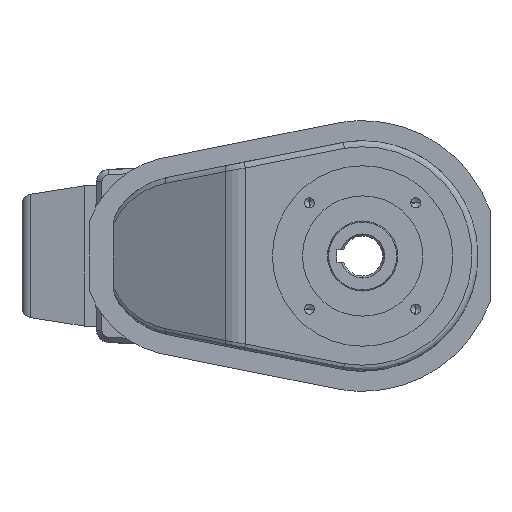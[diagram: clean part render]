
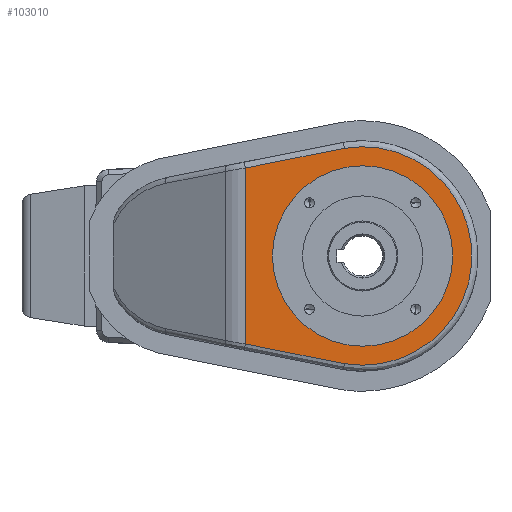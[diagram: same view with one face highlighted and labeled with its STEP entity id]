
A CAD part, left-side view. The second image highlights one B-rep face of the part: STEP entity #103010.
In plain terms, the highlighted planar face has unit normal (-1, 0, 0).
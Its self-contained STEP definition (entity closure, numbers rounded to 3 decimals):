
#101860=CARTESIAN_POINT('',(-285.758,-197.027,
0.017));
#101870=VERTEX_POINT('',#101860);
#101900=CARTESIAN_POINT('',(-285.758,-197.027,
45.017));
#101910=DIRECTION('',(-1.,0.,0.));
#101920=DIRECTION('',(0.,0.,-1.));
#101930=AXIS2_PLACEMENT_3D('',#101900,#101910,#101920);
#101940=CIRCLE('',#101930,45.);
#101950=CARTESIAN_POINT('',(-285.758,-197.027,
90.017));
#101960=VERTEX_POINT('',#101950);
#101970=EDGE_CURVE('',#101960,#101870,#101940,.T.);
#102090=CARTESIAN_POINT('',(-285.758,-213.228,
-1.012));
#102100=DIRECTION('',(-1.,0.,0.));
#102110=DIRECTION('',(0.,0.,-1.));
#102120=AXIS2_PLACEMENT_3D('',#102090,#102100,#102110);
#102130=PLANE('',#102120);
#102140=CARTESIAN_POINT('',(-285.758,-255.493,
-1.363));
#102150=DIRECTION('',(0.,0.,-1.));
#102160=VECTOR('',#102150,1.);
#102170=LINE('',#102140,#102160);
#102180=CARTESIAN_POINT('',(-285.758,-255.493,
88.917));
#102190=VERTEX_POINT('',#102180);
#102200=CARTESIAN_POINT('',(-285.758,-255.493,
1.118));
#102210=VERTEX_POINT('',#102200);
#102220=EDGE_CURVE('',#102190,#102210,#102170,.T.);
#102230=ORIENTED_EDGE('',*,*,#102220,.F.);
#102240=CARTESIAN_POINT('',(-285.758,-206.121,
-8.719));
#102250=CARTESIAN_POINT('',(-285.758,-206.246,
-8.694));
#102260=CARTESIAN_POINT('',(-285.758,-206.365,
-8.67));
#102270=CARTESIAN_POINT('',(-285.758,-222.69,
-5.418));
#102280=CARTESIAN_POINT('',(-285.758,-238.883,
-2.192));
#102290=CARTESIAN_POINT('',(-285.758,-255.216,
1.062));
#102300=CARTESIAN_POINT('',(-285.758,-255.354,
1.09));
#102310=CARTESIAN_POINT('',(-285.758,-255.493,
1.118));
#102320=B_SPLINE_CURVE_WITH_KNOTS('',3,(#102240,#102250,#102260,#102270,
#102280,#102290,#102300,#102310),.UNSPECIFIED.,.F.,.F.,(4,2,2,4),(0.,
0.401,49.937,50.361),.UNSPECIFIED.);
#102330=CARTESIAN_POINT('',(-285.758,-206.121,
-8.719));
#102340=VERTEX_POINT('',#102330);
#102350=EDGE_CURVE('',#102340,#102210,#102320,.T.);
#102360=ORIENTED_EDGE('',*,*,#102350,.T.);
#102370=CARTESIAN_POINT('',(-285.758,-206.121,
98.754));
#102380=CARTESIAN_POINT('',(-285.758,-206.061,
98.764));
#102390=CARTESIAN_POINT('',(-285.758,-206.001,
98.774));
#102400=CARTESIAN_POINT('',(-285.758,-205.881,
98.794));
#102410=CARTESIAN_POINT('',(-285.758,-205.82,
98.804));
#102420=CARTESIAN_POINT('',(-285.758,-203.056,
99.252));
#102430=CARTESIAN_POINT('',(-285.758,-200.325,
99.487));
#102440=CARTESIAN_POINT('',(-285.758,-193.084,
99.561));
#102450=CARTESIAN_POINT('',(-285.758,-188.594,
99.049));
#102460=CARTESIAN_POINT('',(-285.758,-179.843,
96.933));
#102470=CARTESIAN_POINT('',(-285.758,-175.615,
95.337));
#102480=CARTESIAN_POINT('',(-285.758,-167.649,
91.141));
#102490=CARTESIAN_POINT('',(-285.758,-163.941,
88.558));
#102500=CARTESIAN_POINT('',(-285.758,-157.245,
82.539));
#102510=CARTESIAN_POINT('',(-285.758,-154.283,
79.127));
#102520=CARTESIAN_POINT('',(-285.758,-149.266,
71.651));
#102530=CARTESIAN_POINT('',(-285.758,-147.23,
67.617));
#102540=CARTESIAN_POINT('',(-285.758,-144.661,
60.438));
#102550=CARTESIAN_POINT('',(-285.758,-143.864,
57.412));
#102560=CARTESIAN_POINT('',(-285.758,-142.796,
51.258));
#102570=CARTESIAN_POINT('',(-285.758,-142.527,
48.141));
#102580=CARTESIAN_POINT('',(-285.758,-142.527,
45.017));
#102590=CARTESIAN_POINT('',(-285.758,-142.527,
40.516));
#102600=CARTESIAN_POINT('',(-285.758,-143.085,
36.031));
#102610=CARTESIAN_POINT('',(-285.758,-145.291,
27.302));
#102620=CARTESIAN_POINT('',(-285.758,-146.93,
23.091));
#102630=CARTESIAN_POINT('',(-285.758,-151.207,
15.169));
#102640=CARTESIAN_POINT('',(-285.758,-153.827,
11.487));
#102650=CARTESIAN_POINT('',(-285.758,-159.914,
4.854));
#102660=CARTESIAN_POINT('',(-285.758,-163.357,
1.926));
#102670=CARTESIAN_POINT('',(-285.758,-170.884,
-3.014));
#102680=CARTESIAN_POINT('',(-285.758,-174.939,
-5.009));
#102690=CARTESIAN_POINT('',(-285.758,-183.446,
-7.955));
#102700=CARTESIAN_POINT('',(-285.758,-187.866,
-8.895));
#102710=CARTESIAN_POINT('',(-285.758,-196.837,
-9.668));
#102720=CARTESIAN_POINT('',(-285.758,-201.352,
-9.497));
#102730=CARTESIAN_POINT('',(-285.758,-205.853,
-8.763));
#102740=CARTESIAN_POINT('',(-285.758,-205.907,
-8.755));
#102750=CARTESIAN_POINT('',(-285.758,-206.014,
-8.737));
#102760=CARTESIAN_POINT('',(-285.758,-206.067,
-8.728));
#102770=CARTESIAN_POINT('',(-285.758,-206.121,
-8.719));
#102780=B_SPLINE_CURVE_WITH_KNOTS('',3,(#102370,#102380,#102390,#102400,
#102410,#102420,#102430,#102440,#102450,#102460,#102470,#102480,#102490,
#102500,#102510,#102520,#102530,#102540,#102550,#102560,#102570,#102580,
#102590,#102600,#102610,#102620,#102630,#102640,#102650,#102660,#102670,
#102680,#102690,#102700,#102710,#102720,#102730,#102740,#102750,#102760,
#102770),.UNSPECIFIED.,.F.,.F.,(4,2,2,2,2,2,2,2,2,2,3,2,2,2,2,2,2,2,2,4)
,(0.,0.2,0.401,8.841,22.71
,36.578,50.446,64.314,78.182,
87.804,97.425,111.293,125.161,
139.029,152.898,166.766,180.634,
194.502,194.681,194.861),.UNSPECIFIED.);
#102790=CARTESIAN_POINT('',(-285.758,-206.121,
98.754));
#102800=VERTEX_POINT('',#102790);
#102810=EDGE_CURVE('',#102800,#102340,#102780,.T.);
#102820=ORIENTED_EDGE('',*,*,#102810,.T.);
#102830=CARTESIAN_POINT('',(-285.758,-255.493,
88.917));
#102840=CARTESIAN_POINT('',(-285.758,-255.354,
88.945));
#102850=CARTESIAN_POINT('',(-285.758,-255.216,
88.973));
#102860=CARTESIAN_POINT('',(-285.758,-238.883,
92.226));
#102870=CARTESIAN_POINT('',(-285.758,-222.69,
95.453));
#102880=CARTESIAN_POINT('',(-285.758,-206.365,
98.705));
#102890=CARTESIAN_POINT('',(-285.758,-206.246,
98.729));
#102900=CARTESIAN_POINT('',(-285.758,-206.121,
98.754));
#102910=B_SPLINE_CURVE_WITH_KNOTS('',3,(#102830,#102840,#102850,#102860,
#102870,#102880,#102890,#102900),.UNSPECIFIED.,.F.,.F.,(4,2,2,4),(0.,
0.424,49.96,50.361),.UNSPECIFIED.);
#102920=EDGE_CURVE('',#102190,#102800,#102910,.T.);
#102930=ORIENTED_EDGE('',*,*,#102920,.T.);
#102940=EDGE_LOOP('',(#102930,#102820,#102360,#102230));
#102950=FACE_OUTER_BOUND('',#102940,.T.);
#102960=EDGE_CURVE('',#101870,#101960,#101940,.T.);
#102970=ORIENTED_EDGE('',*,*,#102960,.F.);
#102980=ORIENTED_EDGE('',*,*,#101970,.F.);
#102990=EDGE_LOOP('',(#102980,#102970));
#103000=FACE_BOUND('',#102990,.T.);
#103010=ADVANCED_FACE('',(#102950,#103000),#102130,.T.);
